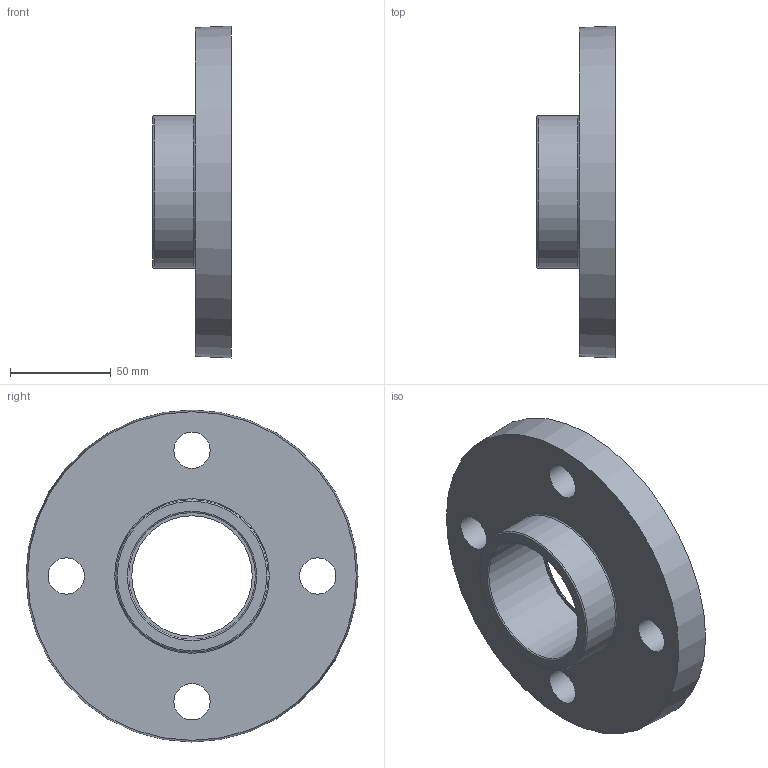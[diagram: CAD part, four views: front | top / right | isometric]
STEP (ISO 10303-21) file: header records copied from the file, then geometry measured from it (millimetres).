
FILE_DESCRIPTION(/* description */ ('PLASSON FIXED FLANGE-CEM PVC 63'),/* implementation_level */ '2;1');
FILE_NAME(/* name */ 'C:\Dropbox\KIMPROJECTS-Inventor\99-16-3568-Processing\PVC Catalog 2017\059200\059100063.ipt.stp',/* time_stamp */ '2017-12-07T16:07:17+02:00',/* author */ ('KIM'),/* organization */ (''),/* preprocessor_version */ 'ST-DEVELOPER v15.6',/* originating_system */ 'Autodesk Inventor 2015',/* authorisation */ '');
FILE_SCHEMA (('AUTOMOTIVE_DESIGN { 1 0 10303 214 3 1 1 }'));
Length unit declared in the file: millimetre
Products named in the file (1): 059100063
Bounding box: 39 x 165 x 165 mm (x, y, z)
Volume: 335519 mm3; surface area: 60922.4 mm2
Topology: 1 solids, 1 shells, 28 faces, 50 edges, 32 vertices
Faces by surface type: cylinder 13, plane 10, torus 4, cone 1
Full cylindrical faces by diameter (mm): 18 x4, 59.85 x1, 62.76 x1, 63 x1, 64.41 x1, 66.06 x1, 67.71 x1, 69.36 x1, 71.01 x1, 75.6 x1
Entity records: 648 total; most frequent: DIRECTION 122, CARTESIAN_POINT 93, EDGE_LOOP 64, ORIENTED_EDGE 64, AXIS2_PLACEMENT_3D 61, FACE_BOUND 36, CIRCLE 32, VERTEX_POINT 32
